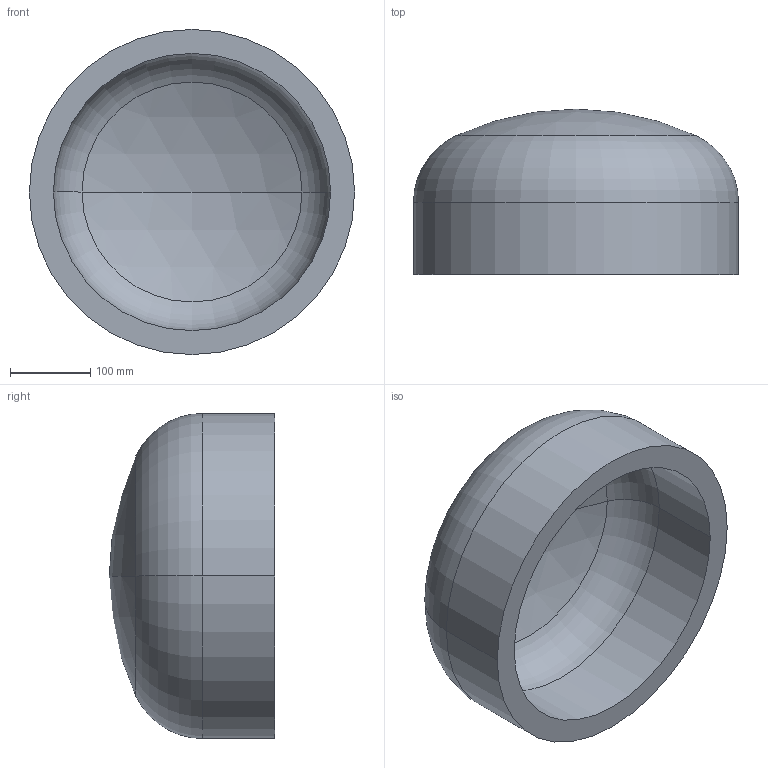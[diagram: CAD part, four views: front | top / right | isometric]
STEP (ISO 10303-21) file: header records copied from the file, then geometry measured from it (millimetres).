
FILE_DESCRIPTION (( 'STEP AP203' ), '1' );
FILE_NAME ('DIN 28013 Korbbogenform_-_Boden DIN 28013 - 406,4 x 90 - I - s=30.step', '2016-07-01T07:50:10', ( '' ), ( '' ), 'SwSTEP 2.0', 'SolidWorks 2013', '' );
FILE_SCHEMA (( 'CONFIG_CONTROL_DESIGN' ));
Length unit declared in the file: millimetre
Products named in the file (1): DIN 28013 Korbbogenform_-_Boden DIN 28013 - 406,4 x 90 - I - s=30
Bounding box: 406.4 x 206.66 x 406.4 mm (x, y, z)
Volume: 8093847.8 mm3; surface area: 576949.6 mm2
Topology: 1 solids, 1 shells, 13 faces, 24 edges, 14 vertices
Faces by surface type: torus 4, cylinder 4, sphere 4, plane 1
Entity records: 407 total; most frequent: DIRECTION 72, CARTESIAN_POINT 52, ORIENTED_EDGE 48, AXIS2_PLACEMENT_3D 34, EDGE_CURVE 24, CIRCLE 20, VERTEX_POINT 14, EDGE_LOOP 14
